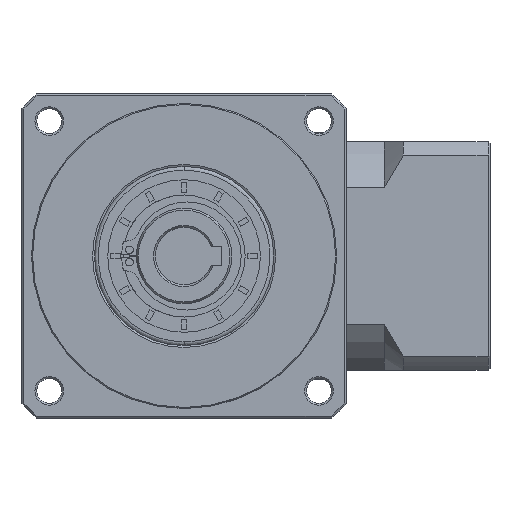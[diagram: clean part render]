
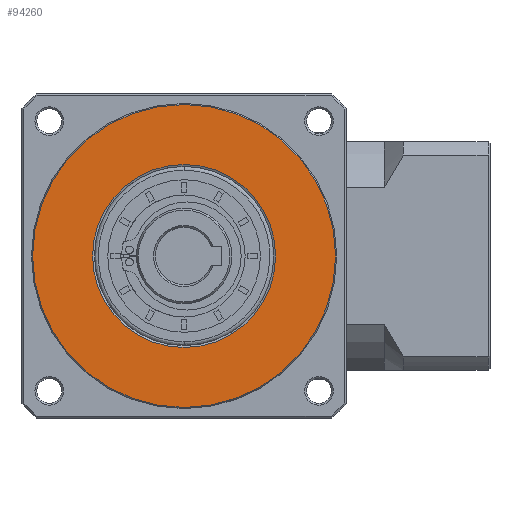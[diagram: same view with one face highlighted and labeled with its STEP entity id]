
A CAD part, left-side view. The second image highlights one B-rep face of the part: STEP entity #94260.
In plain terms, the highlighted planar face has unit normal (-1, 0, 0).
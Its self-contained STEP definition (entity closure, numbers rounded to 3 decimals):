
#8116 = ORIENTED_EDGE ( 'NONE', *, *, #161124, .F. ) ;
#8418 = CARTESIAN_POINT ( 'NONE',  ( 4.417, 32.419, -64.952 ) ) ;
#11667 = ORIENTED_EDGE ( 'NONE', *, *, #25789, .T. ) ;
#12811 = AXIS2_PLACEMENT_3D ( 'NONE', #122313, #42728, #135662 ) ;
#23069 = EDGE_CURVE ( 'NONE', #138724, #89972, #147464, .T. ) ;
#24020 = CIRCLE ( 'NONE', #69426, 39.711 ) ;
#25789 = EDGE_CURVE ( 'NONE', #89972, #138724, #150855, .T. ) ;
#35220 = DIRECTION ( 'NONE',  ( 1., 0., 0. ) ) ;
#42728 = DIRECTION ( 'NONE',  ( 1., 0., 0. ) ) ;
#44538 = EDGE_CURVE ( 'NONE', #131842, #92729, #24020, .T. ) ;
#45489 = CARTESIAN_POINT ( 'NONE',  ( 4.417, -7.293, -40.952 ) ) ;
#47796 = FACE_OUTER_BOUND ( 'NONE', #80881, .T. ) ;
#54008 = DIRECTION ( 'NONE',  ( -1., 0., 0. ) ) ;
#55813 = CARTESIAN_POINT ( 'NONE',  ( 4.417, 32.419, -40.952 ) ) ;
#56798 = DIRECTION ( 'NONE',  ( 1., 0., 0. ) ) ;
#63846 = CARTESIAN_POINT ( 'NONE',  ( 4.417, 72.13, -40.952 ) ) ;
#67695 = AXIS2_PLACEMENT_3D ( 'NONE', #114826, #35220, #128154 ) ;
#69140 = DIRECTION ( 'NONE',  ( 0., 0., -1. ) ) ;
#69426 = AXIS2_PLACEMENT_3D ( 'NONE', #136328, #56798, #149697 ) ;
#69497 = AXIS2_PLACEMENT_3D ( 'NONE', #55813, #148701, #69140 ) ;
#80062 = PLANE ( 'NONE',  #152675 ) ;
#80881 = EDGE_LOOP ( 'NONE', ( #8116, #97124 ) ) ;
#89972 = VERTEX_POINT ( 'NONE', #8418 ) ;
#92729 = VERTEX_POINT ( 'NONE', #63846 ) ;
#94260 = ADVANCED_FACE ( 'NONE', ( #47796, #118408 ), #80062, .T. ) ;
#97124 = ORIENTED_EDGE ( 'NONE', *, *, #44538, .F. ) ;
#114826 = CARTESIAN_POINT ( 'NONE',  ( 4.417, 32.419, -40.952 ) ) ;
#118408 = FACE_BOUND ( 'NONE', #132494, .T. ) ;
#121876 = ORIENTED_EDGE ( 'NONE', *, *, #23069, .T. ) ;
#122313 = CARTESIAN_POINT ( 'NONE',  ( 4.417, 32.419, -40.952 ) ) ;
#128154 = DIRECTION ( 'NONE',  ( 0., 0., -1. ) ) ;
#131842 = VERTEX_POINT ( 'NONE', #45489 ) ;
#132494 = EDGE_LOOP ( 'NONE', ( #11667, #121876 ) ) ;
#133495 = CARTESIAN_POINT ( 'NONE',  ( 4.417, 32.419, -40.952 ) ) ;
#135662 = DIRECTION ( 'NONE',  ( 0., 1., 0. ) ) ;
#136328 = CARTESIAN_POINT ( 'NONE',  ( 4.417, 32.419, -40.952 ) ) ;
#138724 = VERTEX_POINT ( 'NONE', #166565 ) ;
#146884 = DIRECTION ( 'NONE',  ( 0., 0., -1. ) ) ;
#147464 = CIRCLE ( 'NONE', #69497, 24. ) ;
#148701 = DIRECTION ( 'NONE',  ( 1., 0., 0. ) ) ;
#149697 = DIRECTION ( 'NONE',  ( 0., 1., 0. ) ) ;
#150855 = CIRCLE ( 'NONE', #67695, 24. ) ;
#152675 = AXIS2_PLACEMENT_3D ( 'NONE', #133495, #54008, #146884 ) ;
#161124 = EDGE_CURVE ( 'NONE', #92729, #131842, #168033, .T. ) ;
#166565 = CARTESIAN_POINT ( 'NONE',  ( 4.417, 32.419, -16.952 ) ) ;
#168033 = CIRCLE ( 'NONE', #12811, 39.711 ) ;
